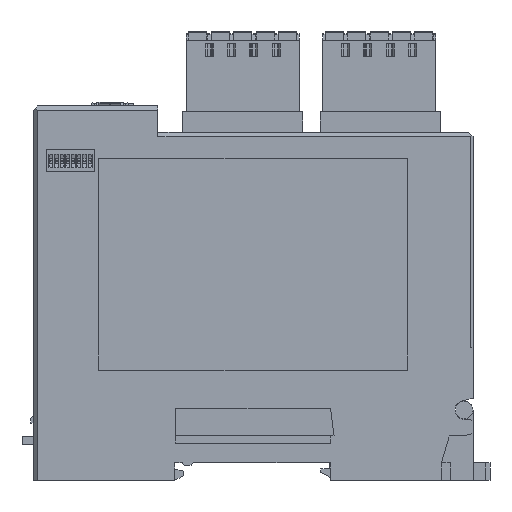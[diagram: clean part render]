
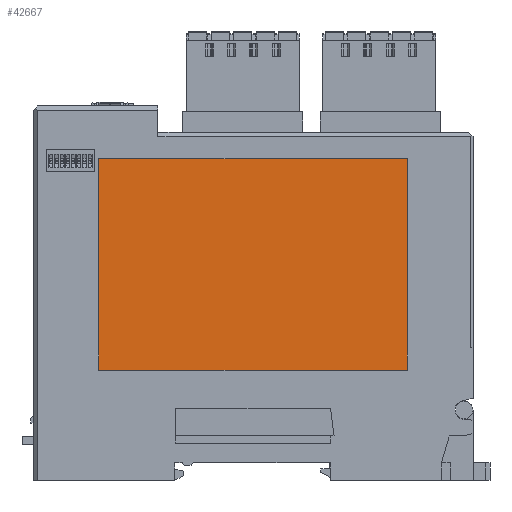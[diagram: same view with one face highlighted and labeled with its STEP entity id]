
A CAD part, left-side view. The second image highlights one B-rep face of the part: STEP entity #42667.
In plain terms, the highlighted planar face has unit normal (-1, 0, 0).
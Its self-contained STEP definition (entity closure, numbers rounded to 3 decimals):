
#3566 = VECTOR ( 'NONE', #54751, 1000. ) ;
#5631 = EDGE_LOOP ( 'NONE', ( #25123, #16156, #20914, #87412 ) ) ;
#8789 = VECTOR ( 'NONE', #48595, 1000. ) ;
#14418 = VERTEX_POINT ( 'NONE', #46710 ) ;
#14529 = VERTEX_POINT ( 'NONE', #25727 ) ;
#16156 = ORIENTED_EDGE ( 'NONE', *, *, #34566, .T. ) ;
#18603 = DIRECTION ( 'NONE',  ( 0., -1., 0. ) ) ;
#18888 = CARTESIAN_POINT ( 'NONE',  ( -14.7, 35.01, 30.55 ) ) ;
#20914 = ORIENTED_EDGE ( 'NONE', *, *, #82317, .T. ) ;
#22566 = VERTEX_POINT ( 'NONE', #29040 ) ;
#25123 = ORIENTED_EDGE ( 'NONE', *, *, #37003, .T. ) ;
#25727 = CARTESIAN_POINT ( 'NONE',  ( -14.7, -35., 30.55 ) ) ;
#26471 = CARTESIAN_POINT ( 'NONE',  ( -14.7, 35.01, -17.46 ) ) ;
#28428 = DIRECTION ( 'NONE',  ( 0., 0., 1. ) ) ;
#29040 = CARTESIAN_POINT ( 'NONE',  ( -14.7, 35.01, -17.46 ) ) ;
#31636 = VECTOR ( 'NONE', #28428, 1000. ) ;
#32534 = EDGE_CURVE ( 'NONE', #14418, #22566, #85870, .T. ) ;
#34566 = EDGE_CURVE ( 'NONE', #60480, #14529, #50845, .T. ) ;
#37003 = EDGE_CURVE ( 'NONE', #22566, #60480, #69252, .T. ) ;
#40328 = AXIS2_PLACEMENT_3D ( 'NONE', #63623, #41238, #55841 ) ;
#41238 = DIRECTION ( 'NONE',  ( -1., 0., 0. ) ) ;
#42667 = ADVANCED_FACE ( 'NONE', ( #60745 ), #82661, .T. ) ;
#44367 = VECTOR ( 'NONE', #18603, 1000. ) ;
#46710 = CARTESIAN_POINT ( 'NONE',  ( -14.7, 35.01, 30.55 ) ) ;
#48595 = DIRECTION ( 'NONE',  ( 0., 1., 0. ) ) ;
#50845 = LINE ( 'NONE', #80518, #31636 ) ;
#54751 = DIRECTION ( 'NONE',  ( 0., 0., -1. ) ) ;
#55841 = DIRECTION ( 'NONE',  ( 0., 0., 1. ) ) ;
#60480 = VERTEX_POINT ( 'NONE', #94706 ) ;
#60745 = FACE_OUTER_BOUND ( 'NONE', #5631, .T. ) ;
#63623 = CARTESIAN_POINT ( 'NONE',  ( -14.7, 0., 0. ) ) ;
#63674 = LINE ( 'NONE', #18888, #8789 ) ;
#64836 = CARTESIAN_POINT ( 'NONE',  ( -14.7, 35.01, -17.46 ) ) ;
#69252 = LINE ( 'NONE', #64836, #44367 ) ;
#80518 = CARTESIAN_POINT ( 'NONE',  ( -14.7, -35., -17.46 ) ) ;
#82317 = EDGE_CURVE ( 'NONE', #14529, #14418, #63674, .T. ) ;
#82661 = PLANE ( 'NONE',  #40328 ) ;
#85870 = LINE ( 'NONE', #26471, #3566 ) ;
#87412 = ORIENTED_EDGE ( 'NONE', *, *, #32534, .T. ) ;
#94706 = CARTESIAN_POINT ( 'NONE',  ( -14.7, -35., -17.46 ) ) ;
